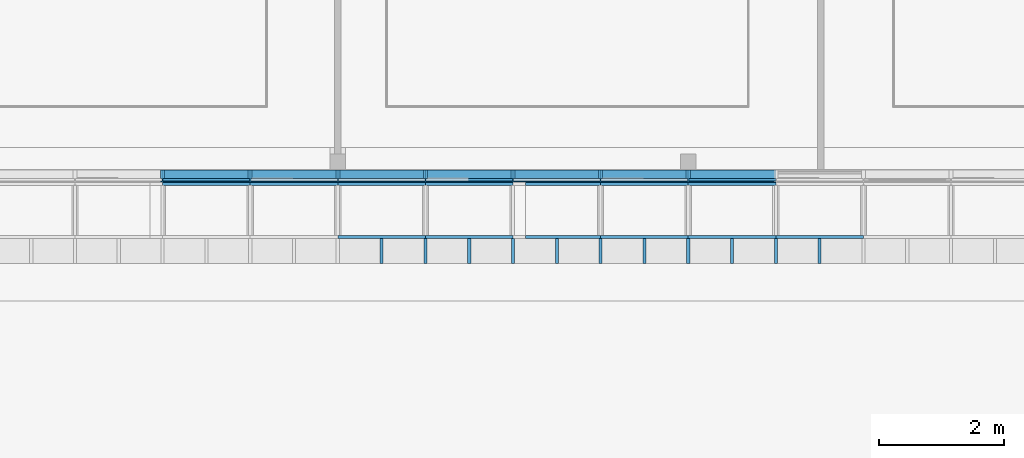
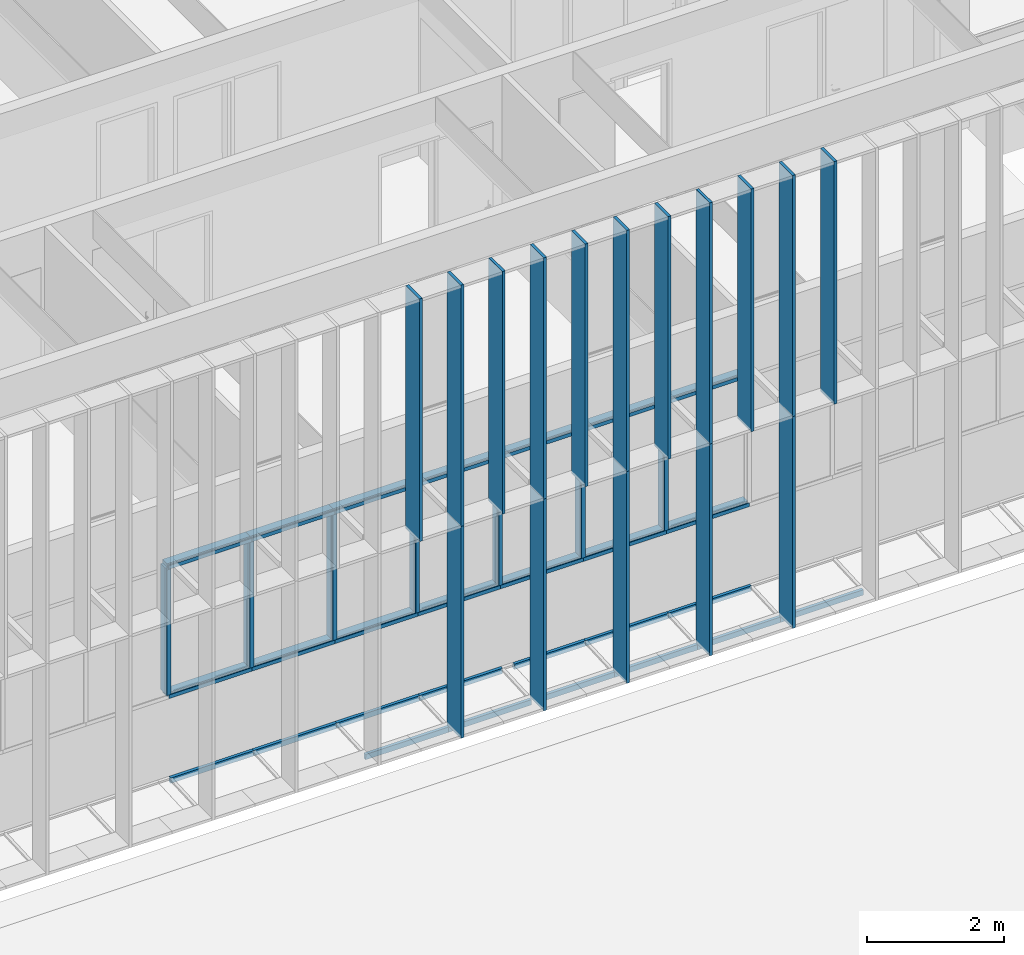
# One storey, part 8 of 106: 50 members, 3 elements without a shape of their own.
"""IFC2X3 building model written with IfcOpenShell, lengths in centimetres."""

from ifc_helpers import new_model, entity, si_unit, converted_unit, derived_unit, direction, frame, origin, origin_2d_with_axis, place, context, subcontext, project, spatial, polyline, rectangle, outline, extrude, source, transform, mapped, material, type_object, type_shapes, element, aggregate, save


model = new_model("IFC2X3")

# Units and contexts
model_context = context("Model", 3, precision=0.001, world=origin(), true_north=direction((6.12303176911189e-17, 1.0)))
body_context = subcontext(model_context, "Body", "Model", "MODEL_VIEW")
ifc_project = project(units=[si_unit("LENGTHUNIT", "METRE", prefix="CENTI"), si_unit("AREAUNIT", "SQUARE_METRE"), si_unit("VOLUMEUNIT", "CUBIC_METRE"), converted_unit("PLANEANGLEUNIT", "DEGREE", entity("IfcRatioMeasure", 0.0174532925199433), si_unit("PLANEANGLEUNIT", "RADIAN"), dimensions=[0, 0, 0, 0, 0, 0, 0]), si_unit("MASSUNIT", "GRAM", prefix="KILO"), derived_unit("MASSDENSITYUNIT", [(si_unit("MASSUNIT", "GRAM", prefix="KILO"), 1), (si_unit("LENGTHUNIT", "METRE"), -3)]), si_unit("TIMEUNIT", "SECOND"), si_unit("FREQUENCYUNIT", "HERTZ"), si_unit("THERMODYNAMICTEMPERATUREUNIT", "DEGREE_CELSIUS"), derived_unit("THERMALTRANSMITTANCEUNIT", [(si_unit("MASSUNIT", "GRAM", prefix="KILO"), 1), (si_unit("THERMODYNAMICTEMPERATUREUNIT", "KELVIN"), -1), (si_unit("TIMEUNIT", "SECOND"), -3)]), derived_unit("VOLUMETRICFLOWRATEUNIT", [(si_unit("LENGTHUNIT", "METRE"), 3), (si_unit("TIMEUNIT", "SECOND"), -1)]), si_unit("ELECTRICCURRENTUNIT", "AMPERE"), si_unit("ELECTRICVOLTAGEUNIT", "VOLT"), si_unit("POWERUNIT", "WATT"), si_unit("FORCEUNIT", "NEWTON", prefix="KILO"), si_unit("ILLUMINANCEUNIT", "LUX"), si_unit("LUMINOUSFLUXUNIT", "LUMEN"), si_unit("LUMINOUSINTENSITYUNIT", "CANDELA"), derived_unit("USERDEFINED", [(si_unit("MASSUNIT", "GRAM", prefix="KILO"), -1), (si_unit("LENGTHUNIT", "METRE"), -2), (si_unit("TIMEUNIT", "SECOND"), 3), (si_unit("LUMINOUSFLUXUNIT", "LUMEN"), 1)]), derived_unit("LINEARVELOCITYUNIT", [(si_unit("LENGTHUNIT", "METRE"), 1), (si_unit("TIMEUNIT", "SECOND"), -1)]), si_unit("PRESSUREUNIT", "PASCAL"), derived_unit("USERDEFINED", [(si_unit("LENGTHUNIT", "METRE"), -2), (si_unit("MASSUNIT", "GRAM", prefix="KILO"), 1), (si_unit("TIMEUNIT", "SECOND"), -2)])], contexts=[model_context])

# Site, building, storey
site_placement = place(None, frame((-2781.94577612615, 7442.24238424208, 0.0)))
site = spatial("IfcSite", under=ifc_project, at=site_placement, Name="Default", CompositionType="ELEMENT")
building_placement = place(site_placement, origin())
building = spatial("IfcBuilding", under=site, at=building_placement, CompositionType="ELEMENT")
storey_placement = place(building_placement, frame((0.0, 0.0, 422.0)))
storey = spatial("IfcBuildingStorey", under=building, at=storey_placement, Name="Toiture - Cuisine", CompositionType="ELEMENT", Elevation=421.999999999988)

# Roof, members
curtain_wall_type_1 = type_object("IfcCurtainWallType", Name="Vitres inclinées:Toit en verre 1 m x 2 m", PredefinedType="NOTDEFINED")
roof_placement = place(building_placement, origin())
roof = element("IfcRoof", 1, at=roof_placement, inside=storey, type_object=curtain_wall_type_1, Name="Vitres inclinées:Toit en verre 1 m x 2 m", ObjectType="Vitres inclinées:Toit en verre 1 m x 2 m", ShapeType="NOTDEFINED")
ifc_material_1 = material(Name="Plastique, blanc opaque")
member_type_1 = type_object("IfcMemberType", Name="100 x 50mm", PredefinedType="MEMBER")
shared_shape_1 = source(origin(), body_context, "Body", "SweptSolid", [
    extrude(rectangle(XDim=10.0, YDim=5.0, at=origin_2d_with_axis()), frame((-2.5, 0.0, -140.0), z_axis=(0.0, 0.0, 1.0), x_axis=(0.0, -1.0, 0.0)), (0.0, 0.0, 1.0), 140.0),
])
type_shapes(member_type_1, [shared_shape_1])
member_1_placement = place(building_placement, frame((-6589.50004166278, -1950.34071342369, 362.709847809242), z_axis=(-1.0, 0.0, 0.0), x_axis=(0.0, 0.998629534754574, 0.0523359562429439)))
member_1 = element("IfcMember", 2, at=member_1_placement, type_object=member_type_1, material=ifc_material_1, Name="Meneau rectangulaire:100 x 50mm", ObjectType="Meneau rectangulaire:100 x 50mm", context=body_context, shape_type="MappedRepresentation", body=[
    mapped(shared_shape_1, transform((0.0, 0.0, 0.0), scale=1.0)),
])
member_2_placement = place(building_placement, frame((-6449.50004166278, -1950.34071342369, 362.709847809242), z_axis=(-1.0, 0.0, 0.0), x_axis=(0.0, 0.998629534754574, 0.0523359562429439)))
member_2 = element("IfcMember", 3, at=member_2_placement, type_object=member_type_1, material=ifc_material_1, Name="Meneau rectangulaire:100 x 50mm", ObjectType="Meneau rectangulaire:100 x 50mm", context=body_context, shape_type="MappedRepresentation", body=[
    mapped(shared_shape_1, transform((0.0, 0.0, 0.0), scale=1.0)),
])
member_3_placement = place(building_placement, frame((-6309.50004166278, -1950.34071342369, 362.709847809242), z_axis=(-1.0, 0.0, 0.0), x_axis=(0.0, 0.998629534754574, 0.0523359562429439)))
member_3 = element("IfcMember", 4, at=member_3_placement, type_object=member_type_1, material=ifc_material_1, Name="Meneau rectangulaire:100 x 50mm", ObjectType="Meneau rectangulaire:100 x 50mm", context=body_context, shape_type="MappedRepresentation", body=[
    mapped(shared_shape_1, transform((0.0, 0.0, 0.0), scale=1.0)),
])
member_4_placement = place(building_placement, frame((-6169.50004166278, -1950.34071342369, 362.709847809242), z_axis=(-1.0, 0.0, 0.0), x_axis=(0.0, 0.998629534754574, 0.0523359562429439)))
member_4 = element("IfcMember", 5, at=member_4_placement, type_object=member_type_1, material=ifc_material_1, Name="Meneau rectangulaire:100 x 50mm", ObjectType="Meneau rectangulaire:100 x 50mm", context=body_context, shape_type="MappedRepresentation", body=[
    mapped(shared_shape_1, transform((0.0, 0.0, 0.0), scale=1.0)),
])
member_5_placement = place(building_placement, frame((-5889.50004166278, -1950.34071342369, 362.709847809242), z_axis=(-1.0, 0.0, 0.0), x_axis=(0.0, 0.998629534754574, 0.0523359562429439)))
member_5 = element("IfcMember", 6, at=member_5_placement, type_object=member_type_1, material=ifc_material_1, Name="Meneau rectangulaire:100 x 50mm", ObjectType="Meneau rectangulaire:100 x 50mm", context=body_context, shape_type="MappedRepresentation", body=[
    mapped(shared_shape_1, transform((0.0, 0.0, 0.0), scale=1.0)),
])
member_6_placement = place(building_placement, frame((-5749.50004166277, -1950.34071342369, 362.709847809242), z_axis=(-1.0, 0.0, 0.0), x_axis=(0.0, 0.998629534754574, 0.0523359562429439)))
member_6 = element("IfcMember", 7, at=member_6_placement, type_object=member_type_1, material=ifc_material_1, Name="Meneau rectangulaire:100 x 50mm", ObjectType="Meneau rectangulaire:100 x 50mm", context=body_context, shape_type="MappedRepresentation", body=[
    mapped(shared_shape_1, transform((0.0, 0.0, 0.0), scale=1.0)),
])
member_type_2 = type_object("IfcMemberType", Name="100 x 50mm", PredefinedType="MEMBER")
shared_shape_2 = source(origin(), body_context, "Body", "SweptSolid", [
    extrude(rectangle(XDim=10.0, YDim=5.0, at=origin_2d_with_axis()), frame((-2.5, 0.0, -140.0), z_axis=(0.0, 0.0, 1.0), x_axis=(0.0, -1.0, 0.0)), (0.0, 0.0, 1.0), 140.0),
])
type_shapes(member_type_2, [shared_shape_2])
member_7_placement = place(building_placement, frame((-6169.50004166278, -2040.34071342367, 357.99314767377), z_axis=(1.0, 0.0, 0.0), x_axis=(0.0, -0.998629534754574, -0.0523359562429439)))
member_7 = element("IfcMember", 8, at=member_7_placement, type_object=member_type_2, material=ifc_material_1, Name="Meneau rectangulaire:100 x 50mm", ObjectType="Meneau rectangulaire:100 x 50mm", context=body_context, shape_type="MappedRepresentation", body=[
    mapped(shared_shape_2, transform((0.0, 0.0, 0.0), scale=1.0)),
])
member_8_placement = place(building_placement, frame((-6029.50004166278, -2040.34071342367, 357.99314767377), z_axis=(1.0, 0.0, 0.0), x_axis=(0.0, -0.998629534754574, -0.0523359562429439)))
member_8 = element("IfcMember", 9, at=member_8_placement, type_object=member_type_2, material=ifc_material_1, Name="Meneau rectangulaire:100 x 50mm", ObjectType="Meneau rectangulaire:100 x 50mm", context=body_context, shape_type="MappedRepresentation", body=[
    mapped(shared_shape_2, transform((0.0, 0.0, 0.0), scale=1.0)),
])
member_9_placement = place(building_placement, frame((-5749.50004166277, -2040.34071342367, 357.99314767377), z_axis=(1.0, 0.0, 0.0), x_axis=(0.0, -0.998629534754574, -0.0523359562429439)))
member_9 = element("IfcMember", 10, at=member_9_placement, type_object=member_type_2, material=ifc_material_1, Name="Meneau rectangulaire:100 x 50mm", ObjectType="Meneau rectangulaire:100 x 50mm", context=body_context, shape_type="MappedRepresentation", body=[
    mapped(shared_shape_2, transform((0.0, 0.0, 0.0), scale=1.0)),
])
member_10_placement = place(building_placement, frame((-5609.50004166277, -2040.34071342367, 357.99314767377), z_axis=(1.0, 0.0, 0.0), x_axis=(0.0, -0.998629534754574, -0.0523359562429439)))
member_10 = element("IfcMember", 11, at=member_10_placement, type_object=member_type_2, material=ifc_material_1, Name="Meneau rectangulaire:100 x 50mm", ObjectType="Meneau rectangulaire:100 x 50mm", context=body_context, shape_type="MappedRepresentation", body=[
    mapped(shared_shape_2, transform((0.0, 0.0, 0.0), scale=1.0)),
])
member_11_placement = place(building_placement, frame((-5469.50004166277, -2040.34071342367, 357.99314767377), z_axis=(1.0, 0.0, 0.0), x_axis=(0.0, -0.998629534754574, -0.0523359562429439)))
member_11 = element("IfcMember", 12, at=member_11_placement, type_object=member_type_2, material=ifc_material_1, Name="Meneau rectangulaire:100 x 50mm", ObjectType="Meneau rectangulaire:100 x 50mm", context=body_context, shape_type="MappedRepresentation", body=[
    mapped(shared_shape_2, transform((0.0, 0.0, 0.0), scale=1.0)),
])
member_type_3 = type_object("IfcMemberType", Name="100 x 50mm", PredefinedType="MEMBER")
shared_shape_3 = source(origin(), body_context, "Body", "SweptSolid", [
    extrude(rectangle(XDim=10.0, YDim=5.0, at=origin_2d_with_axis()), frame((-2.5, 0.0, -119.999835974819), z_axis=(0.0, 0.0, 1.0), x_axis=(0.0, -1.0, 0.0)), (0.0, 0.0, 1.0), 119.999835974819),
])
type_shapes(member_type_3, [shared_shape_3])
member_12_placement = place(building_placement, frame((-6009.49987763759, -1950.34071342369, 362.709847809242), z_axis=(-1.0, 0.0, 0.0), x_axis=(0.0, 0.998629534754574, 0.0523359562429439)))
member_12 = element("IfcMember", 13, at=member_12_placement, type_object=member_type_3, material=ifc_material_1, Name="Meneau rectangulaire:100 x 50mm", ObjectType="Meneau rectangulaire:100 x 50mm", context=body_context, shape_type="MappedRepresentation", body=[
    mapped(shared_shape_3, transform((0.0, 0.0, 0.0), scale=1.0)),
])
member_type_4 = type_object("IfcMemberType", Name="100 x 50mm", PredefinedType="MEMBER")
shared_shape_4 = source(origin(), body_context, "Body", "SweptSolid", [
    extrude(rectangle(XDim=10.0, YDim=5.0, at=origin_2d_with_axis()), frame((-2.5, 0.0, -119.999835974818), z_axis=(0.0, 0.0, 1.0), x_axis=(0.0, -1.0, 0.0)), (0.0, 0.0, 1.0), 119.999835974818),
])
type_shapes(member_type_4, [shared_shape_4])
member_13_placement = place(building_placement, frame((-5889.50004166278, -2040.34071342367, 357.99314767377), z_axis=(1.0, 0.0, 0.0), x_axis=(0.0, -0.998629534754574, -0.0523359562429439)))
member_13 = element("IfcMember", 14, at=member_13_placement, type_object=member_type_4, material=ifc_material_1, Name="Meneau rectangulaire:100 x 50mm", ObjectType="Meneau rectangulaire:100 x 50mm", context=body_context, shape_type="MappedRepresentation", body=[
    mapped(shared_shape_4, transform((0.0, 0.0, 0.0), scale=1.0)),
])
aggregate(roof, [member_1, member_2, member_3, member_4, member_12, member_5, member_6, member_7, member_8, member_13, member_9, member_10, member_11])

# Curtain wall, members
curtain_wall_type_2 = type_object("IfcCurtainWallType", Name="Mur-rideau:07 - mur rideau trame 140 cm", PredefinedType="NOTDEFINED")
curtain_wall_1_placement = place(building_placement, origin())
curtain_wall_1 = element("IfcCurtainWall", 15, at=curtain_wall_1_placement, inside=storey, type_object=curtain_wall_type_2, Name="Mur-rideau:07 - mur rideau trame 140 cm", ObjectType="Mur-rideau:07 - mur rideau trame 140 cm")
ifc_material_2 = material(Name="Aluminium")
member_type_5 = type_object("IfcMemberType", Name="150 x 25mm Détails", PredefinedType="MEMBER")
shared_shape_5 = source(origin(), body_context, "Body", "SweptSolid", [
    extrude(outline(polyline([(-5.6666666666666, -3.24999999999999), (-3.66666666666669, -3.24999999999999), (-3.66666666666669, -0.868749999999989), (-0.166666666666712, -0.868749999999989), (-0.166666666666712, -3.25000000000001), (13.3333333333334, -3.25000000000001), (13.3333333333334, 3.24999999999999), (-0.16666666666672, 3.24999999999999), (-0.16666666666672, 0.868749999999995), (-3.66666666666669, 0.868749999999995), (-3.66666666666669, 3.25), (-5.6666666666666, 3.25), (-5.6666666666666, -3.24999999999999)])), frame((-3.24999999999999, -1.96666666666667, -140.0), z_axis=(0.0, 0.0, 1.0), x_axis=(0.0, -1.0, 0.0)), (0.0, 0.0, 1.0), 140.000000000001),
])
type_shapes(member_type_5, [shared_shape_5])
member_14_placement = place(building_placement, frame((-6449.49987763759, -1946.27903364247, 743.0), z_axis=(1.0, 0.0, 0.0), x_axis=(0.0, 0.0, 1.0)))
member_14 = element("IfcMember", 16, at=member_14_placement, type_object=member_type_5, material=ifc_material_2, Name="Meneau rectangulaire:150 x 25mm Détails", ObjectType="Meneau rectangulaire:150 x 25mm Détails", context=body_context, shape_type="MappedRepresentation", body=[
    mapped(shared_shape_5, transform((0.0, 0.0, 0.0), scale=1.0)),
])
member_15_placement = place(building_placement, frame((-6309.49987763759, -1946.27903364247, 743.0), z_axis=(1.0, 0.0, 0.0), x_axis=(0.0, 0.0, 1.0)))
member_15 = element("IfcMember", 17, at=member_15_placement, type_object=member_type_5, material=ifc_material_2, Name="Meneau rectangulaire:150 x 25mm Détails", ObjectType="Meneau rectangulaire:150 x 25mm Détails", context=body_context, shape_type="MappedRepresentation", body=[
    mapped(shared_shape_5, transform((0.0, 0.0, 0.0), scale=1.0)),
])
member_16_placement = place(building_placement, frame((-6169.49987763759, -1946.27903364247, 743.0), z_axis=(1.0, 0.0, 0.0), x_axis=(0.0, 0.0, 1.0)))
member_16 = element("IfcMember", 18, at=member_16_placement, type_object=member_type_5, material=ifc_material_2, Name="Meneau rectangulaire:150 x 25mm Détails", ObjectType="Meneau rectangulaire:150 x 25mm Détails", context=body_context, shape_type="MappedRepresentation", body=[
    mapped(shared_shape_5, transform((0.0, 0.0, 0.0), scale=1.0)),
])
member_17_placement = place(building_placement, frame((-6029.49987763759, -1946.27903364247, 743.0), z_axis=(1.0, 0.0, 0.0), x_axis=(0.0, 0.0, 1.0)))
member_17 = element("IfcMember", 19, at=member_17_placement, type_object=member_type_5, material=ifc_material_2, Name="Meneau rectangulaire:150 x 25mm Détails", ObjectType="Meneau rectangulaire:150 x 25mm Détails", context=body_context, shape_type="MappedRepresentation", body=[
    mapped(shared_shape_5, transform((0.0, 0.0, 0.0), scale=1.0)),
])
member_18_placement = place(building_placement, frame((-5889.49987763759, -1946.27903364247, 743.0), z_axis=(1.0, 0.0, 0.0), x_axis=(0.0, 0.0, 1.0)))
member_18 = element("IfcMember", 20, at=member_18_placement, type_object=member_type_5, material=ifc_material_2, Name="Meneau rectangulaire:150 x 25mm Détails", ObjectType="Meneau rectangulaire:150 x 25mm Détails", context=body_context, shape_type="MappedRepresentation", body=[
    mapped(shared_shape_5, transform((0.0, 0.0, 0.0), scale=1.0)),
])
member_19_placement = place(building_placement, frame((-5749.49987763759, -1946.27903364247, 743.0), z_axis=(1.0, 0.0, 0.0), x_axis=(0.0, 0.0, 1.0)))
member_19 = element("IfcMember", 21, at=member_19_placement, type_object=member_type_5, material=ifc_material_2, Name="Meneau rectangulaire:150 x 25mm Détails", ObjectType="Meneau rectangulaire:150 x 25mm Détails", context=body_context, shape_type="MappedRepresentation", body=[
    mapped(shared_shape_5, transform((0.0, 0.0, 0.0), scale=1.0)),
])
member_20_placement = place(building_placement, frame((-5609.49987763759, -1946.27903364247, 743.0), z_axis=(1.0, 0.0, 0.0), x_axis=(0.0, 0.0, 1.0)))
member_20 = element("IfcMember", 22, at=member_20_placement, type_object=member_type_5, material=ifc_material_2, Name="Meneau rectangulaire:150 x 25mm Détails", ObjectType="Meneau rectangulaire:150 x 25mm Détails", context=body_context, shape_type="MappedRepresentation", body=[
    mapped(shared_shape_5, transform((0.0, 0.0, 0.0), scale=1.0)),
])
member_type_6 = type_object("IfcMemberType", Name="150 x 25mm Détails", PredefinedType="MEMBER")
shared_shape_6 = source(origin(), body_context, "Body", "SweptSolid", [
    extrude(outline(polyline([(-5.66666666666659, -3.25), (-3.66666666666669, -3.25), (-3.66666666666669, -0.868749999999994), (-0.166666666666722, -0.868749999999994), (-0.166666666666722, -3.25000000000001), (13.3333333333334, -3.24999999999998), (13.3333333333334, 3.25000000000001), (-0.166666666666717, 3.25000000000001), (-0.166666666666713, 0.868749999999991), (-3.66666666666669, 0.868749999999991), (-3.66666666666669, 3.24999999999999), (-5.66666666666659, 3.24999999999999), (-5.66666666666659, -3.25)])), frame((-3.24999999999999, -1.96666666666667, -140.0), z_axis=(0.0, 0.0, 1.0), x_axis=(0.0, -1.0, 0.0)), (0.0, 0.0, 1.0), 140.000000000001),
])
type_shapes(member_type_6, [shared_shape_6])
member_21_placement = place(building_placement, frame((-6589.49987763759, -1946.27903364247, 505.5), z_axis=(-1.0, 0.0, 0.0), x_axis=(0.0, 0.0, -1.0)))
member_21 = element("IfcMember", 23, at=member_21_placement, type_object=member_type_6, material=ifc_material_2, Name="Meneau rectangulaire:150 x 25mm Détails", ObjectType="Meneau rectangulaire:150 x 25mm Détails", context=body_context, shape_type="MappedRepresentation", body=[
    mapped(shared_shape_6, transform((0.0, 0.0, 0.0), scale=1.0)),
])
member_22_placement = place(building_placement, frame((-6449.49987763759, -1946.27903364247, 505.5), z_axis=(-1.0, 0.0, 0.0), x_axis=(0.0, 0.0, -1.0)))
member_22 = element("IfcMember", 24, at=member_22_placement, type_object=member_type_6, material=ifc_material_2, Name="Meneau rectangulaire:150 x 25mm Détails", ObjectType="Meneau rectangulaire:150 x 25mm Détails", context=body_context, shape_type="MappedRepresentation", body=[
    mapped(shared_shape_6, transform((0.0, 0.0, 0.0), scale=1.0)),
])
member_23_placement = place(building_placement, frame((-6309.49987763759, -1946.27903364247, 505.5), z_axis=(-1.0, 0.0, 0.0), x_axis=(0.0, 0.0, -1.0)))
member_23 = element("IfcMember", 25, at=member_23_placement, type_object=member_type_6, material=ifc_material_2, Name="Meneau rectangulaire:150 x 25mm Détails", ObjectType="Meneau rectangulaire:150 x 25mm Détails", context=body_context, shape_type="MappedRepresentation", body=[
    mapped(shared_shape_6, transform((0.0, 0.0, 0.0), scale=1.0)),
])
member_24_placement = place(building_placement, frame((-6169.49987763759, -1946.27903364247, 505.5), z_axis=(-1.0, 0.0, 0.0), x_axis=(0.0, 0.0, -1.0)))
member_24 = element("IfcMember", 26, at=member_24_placement, type_object=member_type_6, material=ifc_material_2, Name="Meneau rectangulaire:150 x 25mm Détails", ObjectType="Meneau rectangulaire:150 x 25mm Détails", context=body_context, shape_type="MappedRepresentation", body=[
    mapped(shared_shape_6, transform((0.0, 0.0, 0.0), scale=1.0)),
])
member_25_placement = place(building_placement, frame((-6029.49987763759, -1946.27903364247, 505.5), z_axis=(-1.0, 0.0, 0.0), x_axis=(0.0, 0.0, -1.0)))
member_25 = element("IfcMember", 27, at=member_25_placement, type_object=member_type_6, material=ifc_material_2, Name="Meneau rectangulaire:150 x 25mm Détails", ObjectType="Meneau rectangulaire:150 x 25mm Détails", context=body_context, shape_type="MappedRepresentation", body=[
    mapped(shared_shape_6, transform((0.0, 0.0, 0.0), scale=1.0)),
])
member_26_placement = place(building_placement, frame((-5889.49987763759, -1946.27903364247, 505.5), z_axis=(-1.0, 0.0, 0.0), x_axis=(0.0, 0.0, -1.0)))
member_26 = element("IfcMember", 28, at=member_26_placement, type_object=member_type_6, material=ifc_material_2, Name="Meneau rectangulaire:150 x 25mm Détails", ObjectType="Meneau rectangulaire:150 x 25mm Détails", context=body_context, shape_type="MappedRepresentation", body=[
    mapped(shared_shape_6, transform((0.0, 0.0, 0.0), scale=1.0)),
])
member_27_placement = place(building_placement, frame((-5749.49987763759, -1946.27903364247, 505.5), z_axis=(-1.0, 0.0, 0.0), x_axis=(0.0, 0.0, -1.0)))
member_27 = element("IfcMember", 29, at=member_27_placement, type_object=member_type_6, material=ifc_material_2, Name="Meneau rectangulaire:150 x 25mm Détails", ObjectType="Meneau rectangulaire:150 x 25mm Détails", context=body_context, shape_type="MappedRepresentation", body=[
    mapped(shared_shape_6, transform((0.0, 0.0, 0.0), scale=1.0)),
])
member_type_7 = type_object("IfcMemberType", Name="150 x 25mm Détails", PredefinedType="MEMBER")
shared_shape_7 = source(origin(), body_context, "Body", "SweptSolid", [
    extrude(outline(polyline([(-5.6666666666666, -3.24999999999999), (-3.66666666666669, -3.24999999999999), (-3.66666666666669, -0.86874999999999), (-0.166666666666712, -0.86874999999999), (-0.166666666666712, -3.25000000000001), (13.3333333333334, -3.25000000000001), (13.3333333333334, 3.24999999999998), (-0.16666666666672, 3.24999999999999), (-0.16666666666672, 0.868749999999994), (-3.66666666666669, 0.868749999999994), (-3.66666666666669, 3.25), (-5.6666666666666, 3.25), (-5.6666666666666, -3.24999999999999)])), frame((0.0, -1.96666666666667, -224.5), z_axis=(0.0, 0.0, 1.0), x_axis=(0.0, -1.0, 0.0)), (0.0, 0.0, 1.0), 224.5),
])
type_shapes(member_type_7, [shared_shape_7])
member_28_placement = place(building_placement, frame((-6589.49987763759, -1946.27903364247, 512.0), z_axis=(0.0, 0.0, -1.0), x_axis=(1.0, 0.0, 0.0)))
member_28 = element("IfcMember", 30, at=member_28_placement, type_object=member_type_7, material=ifc_material_2, Name="Meneau rectangulaire:150 x 25mm Détails", ObjectType="Meneau rectangulaire:150 x 25mm Détails", context=body_context, shape_type="MappedRepresentation", body=[
    mapped(shared_shape_7, transform((0.0, 0.0, 0.0), scale=1.0)),
])
member_29_placement = place(building_placement, frame((-6449.49987763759, -1946.27903364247, 512.0), z_axis=(0.0, 0.0, -1.0), x_axis=(1.0, 0.0, 0.0)))
member_29 = element("IfcMember", 31, at=member_29_placement, type_object=member_type_7, material=ifc_material_2, Name="Meneau rectangulaire:150 x 25mm Détails", ObjectType="Meneau rectangulaire:150 x 25mm Détails", context=body_context, shape_type="MappedRepresentation", body=[
    mapped(shared_shape_7, transform((0.0, 0.0, 0.0), scale=1.0)),
])
member_30_placement = place(building_placement, frame((-6309.49987763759, -1946.27903364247, 512.0), z_axis=(0.0, 0.0, -1.0), x_axis=(1.0, 0.0, 0.0)))
member_30 = element("IfcMember", 32, at=member_30_placement, type_object=member_type_7, material=ifc_material_2, Name="Meneau rectangulaire:150 x 25mm Détails", ObjectType="Meneau rectangulaire:150 x 25mm Détails", context=body_context, shape_type="MappedRepresentation", body=[
    mapped(shared_shape_7, transform((0.0, 0.0, 0.0), scale=1.0)),
])
member_31_placement = place(building_placement, frame((-6169.49987763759, -1946.27903364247, 512.0), z_axis=(0.0, 0.0, -1.0), x_axis=(1.0, 0.0, 0.0)))
member_31 = element("IfcMember", 33, at=member_31_placement, type_object=member_type_7, material=ifc_material_2, Name="Meneau rectangulaire:150 x 25mm Détails", ObjectType="Meneau rectangulaire:150 x 25mm Détails", context=body_context, shape_type="MappedRepresentation", body=[
    mapped(shared_shape_7, transform((0.0, 0.0, 0.0), scale=1.0)),
])
member_32_placement = place(building_placement, frame((-6029.49987763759, -1946.27903364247, 512.0), z_axis=(0.0, 0.0, -1.0), x_axis=(1.0, 0.0, 0.0)))
member_32 = element("IfcMember", 34, at=member_32_placement, type_object=member_type_7, material=ifc_material_2, Name="Meneau rectangulaire:150 x 25mm Détails", ObjectType="Meneau rectangulaire:150 x 25mm Détails", context=body_context, shape_type="MappedRepresentation", body=[
    mapped(shared_shape_7, transform((0.0, 0.0, 0.0), scale=1.0)),
])
member_33_placement = place(building_placement, frame((-5889.49987763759, -1946.27903364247, 512.0), z_axis=(0.0, 0.0, -1.0), x_axis=(1.0, 0.0, 0.0)))
member_33 = element("IfcMember", 35, at=member_33_placement, type_object=member_type_7, material=ifc_material_2, Name="Meneau rectangulaire:150 x 25mm Détails", ObjectType="Meneau rectangulaire:150 x 25mm Détails", context=body_context, shape_type="MappedRepresentation", body=[
    mapped(shared_shape_7, transform((0.0, 0.0, 0.0), scale=1.0)),
])
member_34_placement = place(building_placement, frame((-5749.49987763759, -1946.27903364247, 512.0), z_axis=(0.0, 0.0, -1.0), x_axis=(1.0, 0.0, 0.0)))
member_34 = element("IfcMember", 36, at=member_34_placement, type_object=member_type_7, material=ifc_material_2, Name="Meneau rectangulaire:150 x 25mm Détails", ObjectType="Meneau rectangulaire:150 x 25mm Détails", context=body_context, shape_type="MappedRepresentation", body=[
    mapped(shared_shape_7, transform((0.0, 0.0, 0.0), scale=1.0)),
])
aggregate(curtain_wall_1, [member_14, member_15, member_16, member_17, member_18, member_19, member_20, member_21, member_22, member_23, member_24, member_25, member_26, member_27, member_28, member_29, member_30, member_31, member_32, member_33, member_34])

curtain_wall_type_3 = type_object("IfcCurtainWallType", Name="Mur-rideau:Epines - 400x30mm", PredefinedType="NOTDEFINED")
curtain_wall_2_placement = place(building_placement, origin())
curtain_wall_2 = element("IfcCurtainWall", 37, at=curtain_wall_2_placement, inside=storey, type_object=curtain_wall_type_3, Name="Mur-rideau:Epines - 400x30mm", ObjectType="Mur-rideau:Epines - 400x30mm")
member_type_8 = type_object("IfcMemberType", Name="Epine sud (400x50 mm)", PredefinedType="MEMBER")
shared_shape_8 = source(origin(), body_context, "Body", "SweptSolid", [
    extrude(rectangle(XDim=40.0, YDim=5.0, at=origin_2d_with_axis()), frame((0.0, 0.0, -377.950708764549), z_axis=(0.0, 0.0, 1.0), x_axis=(0.0, -1.0, 0.0)), (0.0, 0.0, 1.0), 377.950708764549),
])
type_shapes(member_type_8, [shared_shape_8])
member_35_placement = place(building_placement, frame((-6169.49987763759, -2060.07903364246, 367.449291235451), z_axis=(0.0, 0.0, -1.0), x_axis=(1.0, 0.0, 0.0)))
member_35 = element("IfcMember", 38, at=member_35_placement, type_object=member_type_8, material=ifc_material_2, Name="Meneau rectangulaire:Epine sud (400x50 mm)", ObjectType="Meneau rectangulaire:Epine sud (400x50 mm)", context=body_context, shape_type="MappedRepresentation", body=[
    mapped(shared_shape_8, transform((0.0, 0.0, 0.0), scale=1.0)),
])
member_36_placement = place(building_placement, frame((-6029.49987763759, -2060.07903364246, 367.449291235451), z_axis=(0.0, 0.0, -1.0), x_axis=(1.0, 0.0, 0.0)))
member_36 = element("IfcMember", 39, at=member_36_placement, type_object=member_type_8, material=ifc_material_2, Name="Meneau rectangulaire:Epine sud (400x50 mm)", ObjectType="Meneau rectangulaire:Epine sud (400x50 mm)", context=body_context, shape_type="MappedRepresentation", body=[
    mapped(shared_shape_8, transform((0.0, 0.0, 0.0), scale=1.0)),
])
member_37_placement = place(building_placement, frame((-5889.49987763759, -2060.07903364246, 367.449291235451), z_axis=(0.0, 0.0, -1.0), x_axis=(1.0, 0.0, 0.0)))
member_37 = element("IfcMember", 40, at=member_37_placement, type_object=member_type_8, material=ifc_material_2, Name="Meneau rectangulaire:Epine sud (400x50 mm)", ObjectType="Meneau rectangulaire:Epine sud (400x50 mm)", context=body_context, shape_type="MappedRepresentation", body=[
    mapped(shared_shape_8, transform((0.0, 0.0, 0.0), scale=1.0)),
])
member_38_placement = place(building_placement, frame((-5749.49987763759, -2060.07903364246, 367.449291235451), z_axis=(0.0, 0.0, -1.0), x_axis=(1.0, 0.0, 0.0)))
member_38 = element("IfcMember", 41, at=member_38_placement, type_object=member_type_8, material=ifc_material_2, Name="Meneau rectangulaire:Epine sud (400x50 mm)", ObjectType="Meneau rectangulaire:Epine sud (400x50 mm)", context=body_context, shape_type="MappedRepresentation", body=[
    mapped(shared_shape_8, transform((0.0, 0.0, 0.0), scale=1.0)),
])
member_39_placement = place(building_placement, frame((-5609.49987763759, -2060.07903364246, 367.449291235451), z_axis=(0.0, 0.0, -1.0), x_axis=(1.0, 0.0, 0.0)))
member_39 = element("IfcMember", 42, at=member_39_placement, type_object=member_type_8, material=ifc_material_2, Name="Meneau rectangulaire:Epine sud (400x50 mm)", ObjectType="Meneau rectangulaire:Epine sud (400x50 mm)", context=body_context, shape_type="MappedRepresentation", body=[
    mapped(shared_shape_8, transform((0.0, 0.0, 0.0), scale=1.0)),
])
member_type_9 = type_object("IfcMemberType", Name="Epine sud (400x50 mm)", PredefinedType="MEMBER")
shared_shape_9 = source(origin(), body_context, "Body", "SweptSolid", [
    extrude(rectangle(XDim=40.0, YDim=5.0, at=origin_2d_with_axis()), frame((0.0, 0.0, -430.600000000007), z_axis=(0.0, 0.0, 1.0), x_axis=(0.0, -1.0, 0.0)), (0.0, 0.0, 1.0), 430.600000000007),
])
type_shapes(member_type_9, [shared_shape_9])
member_40_placement = place(building_placement, frame((-6169.49987763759, -2060.07903364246, 745.4), z_axis=(0.0, 0.0, -1.0), x_axis=(1.0, 0.0, 0.0)))
member_40 = element("IfcMember", 43, at=member_40_placement, type_object=member_type_9, material=ifc_material_2, Name="Meneau rectangulaire:Epine sud (400x50 mm)", ObjectType="Meneau rectangulaire:Epine sud (400x50 mm)", context=body_context, shape_type="MappedRepresentation", body=[
    mapped(shared_shape_9, transform((0.0, 0.0, 0.0), scale=1.0)),
])
member_41_placement = place(building_placement, frame((-6029.49987763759, -2060.07903364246, 745.4), z_axis=(0.0, 0.0, -1.0), x_axis=(1.0, 0.0, 0.0)))
member_41 = element("IfcMember", 44, at=member_41_placement, type_object=member_type_9, material=ifc_material_2, Name="Meneau rectangulaire:Epine sud (400x50 mm)", ObjectType="Meneau rectangulaire:Epine sud (400x50 mm)", context=body_context, shape_type="MappedRepresentation", body=[
    mapped(shared_shape_9, transform((0.0, 0.0, 0.0), scale=1.0)),
])
member_42_placement = place(building_placement, frame((-5889.49987763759, -2060.07903364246, 745.4), z_axis=(0.0, 0.0, -1.0), x_axis=(1.0, 0.0, 0.0)))
member_42 = element("IfcMember", 45, at=member_42_placement, type_object=member_type_9, material=ifc_material_2, Name="Meneau rectangulaire:Epine sud (400x50 mm)", ObjectType="Meneau rectangulaire:Epine sud (400x50 mm)", context=body_context, shape_type="MappedRepresentation", body=[
    mapped(shared_shape_9, transform((0.0, 0.0, 0.0), scale=1.0)),
])
member_43_placement = place(building_placement, frame((-5749.49987763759, -2060.07903364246, 745.4), z_axis=(0.0, 0.0, -1.0), x_axis=(1.0, 0.0, 0.0)))
member_43 = element("IfcMember", 46, at=member_43_placement, type_object=member_type_9, material=ifc_material_2, Name="Meneau rectangulaire:Epine sud (400x50 mm)", ObjectType="Meneau rectangulaire:Epine sud (400x50 mm)", context=body_context, shape_type="MappedRepresentation", body=[
    mapped(shared_shape_9, transform((0.0, 0.0, 0.0), scale=1.0)),
])
member_44_placement = place(building_placement, frame((-5609.49987763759, -2060.07903364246, 745.4), z_axis=(0.0, 0.0, -1.0), x_axis=(1.0, 0.0, 0.0)))
member_44 = element("IfcMember", 47, at=member_44_placement, type_object=member_type_9, material=ifc_material_2, Name="Meneau rectangulaire:Epine sud (400x50 mm)", ObjectType="Meneau rectangulaire:Epine sud (400x50 mm)", context=body_context, shape_type="MappedRepresentation", body=[
    mapped(shared_shape_9, transform((0.0, 0.0, 0.0), scale=1.0)),
])
member_type_10 = type_object("IfcMemberType", Name="Epine sud (400x50 mm)", PredefinedType="MEMBER")
shared_shape_10 = source(origin(), body_context, "Body", "SweptSolid", [
    extrude(rectangle(XDim=40.0, YDim=5.0, at=origin_2d_with_axis()), frame((0.0, 0.0, -433.100000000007), z_axis=(0.0, 0.0, 1.0), x_axis=(0.0, -1.0, 0.0)), (0.0, 0.0, 1.0), 433.100000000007),
])
type_shapes(member_type_10, [shared_shape_10])
member_45_placement = place(building_placement, frame((-6239.49987763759, -2060.07903364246, 742.9), z_axis=(0.0, 0.0, -1.0), x_axis=(1.0, 0.0, 0.0)))
member_45 = element("IfcMember", 48, at=member_45_placement, type_object=member_type_10, material=ifc_material_2, Name="Meneau rectangulaire:Epine sud (400x50 mm)", ObjectType="Meneau rectangulaire:Epine sud (400x50 mm)", context=body_context, shape_type="MappedRepresentation", body=[
    mapped(shared_shape_10, transform((0.0, 0.0, 0.0), scale=1.0)),
])
member_46_placement = place(building_placement, frame((-6099.49987763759, -2060.07903364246, 742.9), z_axis=(0.0, 0.0, -1.0), x_axis=(1.0, 0.0, 0.0)))
member_46 = element("IfcMember", 49, at=member_46_placement, type_object=member_type_10, material=ifc_material_2, Name="Meneau rectangulaire:Epine sud (400x50 mm)", ObjectType="Meneau rectangulaire:Epine sud (400x50 mm)", context=body_context, shape_type="MappedRepresentation", body=[
    mapped(shared_shape_10, transform((0.0, 0.0, 0.0), scale=1.0)),
])
member_47_placement = place(building_placement, frame((-5959.49987763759, -2060.07903364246, 742.9), z_axis=(0.0, 0.0, -1.0), x_axis=(1.0, 0.0, 0.0)))
member_47 = element("IfcMember", 50, at=member_47_placement, type_object=member_type_10, material=ifc_material_2, Name="Meneau rectangulaire:Epine sud (400x50 mm)", ObjectType="Meneau rectangulaire:Epine sud (400x50 mm)", context=body_context, shape_type="MappedRepresentation", body=[
    mapped(shared_shape_10, transform((0.0, 0.0, 0.0), scale=1.0)),
])
member_48_placement = place(building_placement, frame((-5819.49987763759, -2060.07903364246, 742.9), z_axis=(0.0, 0.0, -1.0), x_axis=(1.0, 0.0, 0.0)))
member_48 = element("IfcMember", 51, at=member_48_placement, type_object=member_type_10, material=ifc_material_2, Name="Meneau rectangulaire:Epine sud (400x50 mm)", ObjectType="Meneau rectangulaire:Epine sud (400x50 mm)", context=body_context, shape_type="MappedRepresentation", body=[
    mapped(shared_shape_10, transform((0.0, 0.0, 0.0), scale=1.0)),
])
member_49_placement = place(building_placement, frame((-5679.49987763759, -2060.07903364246, 742.9), z_axis=(0.0, 0.0, -1.0), x_axis=(1.0, 0.0, 0.0)))
member_49 = element("IfcMember", 52, at=member_49_placement, type_object=member_type_10, material=ifc_material_2, Name="Meneau rectangulaire:Epine sud (400x50 mm)", ObjectType="Meneau rectangulaire:Epine sud (400x50 mm)", context=body_context, shape_type="MappedRepresentation", body=[
    mapped(shared_shape_10, transform((0.0, 0.0, 0.0), scale=1.0)),
])
member_50_placement = place(building_placement, frame((-5539.49987763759, -2060.07903364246, 742.9), z_axis=(0.0, 0.0, -1.0), x_axis=(1.0, 0.0, 0.0)))
member_50 = element("IfcMember", 53, at=member_50_placement, type_object=member_type_10, material=ifc_material_2, Name="Meneau rectangulaire:Epine sud (400x50 mm)", ObjectType="Meneau rectangulaire:Epine sud (400x50 mm)", context=body_context, shape_type="MappedRepresentation", body=[
    mapped(shared_shape_10, transform((0.0, 0.0, 0.0), scale=1.0)),
])
aggregate(curtain_wall_2, [member_40, member_35, member_41, member_36, member_42, member_37, member_43, member_38, member_44, member_39, member_45, member_46, member_47, member_48, member_49, member_50])

save(model, "model.ifc")
